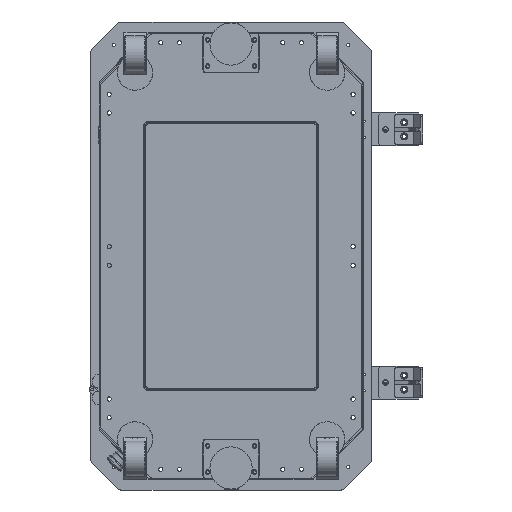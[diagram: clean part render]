
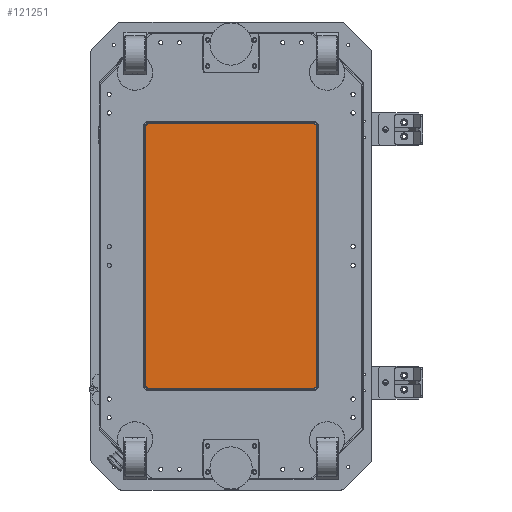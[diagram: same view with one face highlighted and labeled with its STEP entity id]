
A CAD part, front view. The second image highlights one B-rep face of the part: STEP entity #121251.
In plain terms, the highlighted planar face has unit normal (0, -1, 0).
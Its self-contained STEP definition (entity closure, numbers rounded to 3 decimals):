
#275 = CARTESIAN_POINT ( 'NONE',  ( -182., 10., 275. ) ) ;
#4348 = CIRCLE ( 'NONE', #133621, 7. ) ;
#6331 = VECTOR ( 'NONE', #153207, 1000. ) ;
#9752 = FACE_OUTER_BOUND ( 'NONE', #70098, .T. ) ;
#10982 = LINE ( 'NONE', #62292, #6331 ) ;
#11205 = EDGE_CURVE ( 'NONE', #171677, #144870, #33073, .T. ) ;
#14528 = EDGE_CURVE ( 'NONE', #148484, #87343, #34905, .T. ) ;
#16152 = DIRECTION ( 'NONE',  ( 0., -1., 0. ) ) ;
#17173 = DIRECTION ( 'NONE',  ( 0., 0., 1. ) ) ;
#26841 = VERTEX_POINT ( 'NONE', #143036 ) ;
#26889 = CARTESIAN_POINT ( 'NONE',  ( -182., 10., 275. ) ) ;
#28121 = ORIENTED_EDGE ( 'NONE', *, *, #14528, .T. ) ;
#30384 = CARTESIAN_POINT ( 'NONE',  ( -175., 10., 282. ) ) ;
#30429 = CARTESIAN_POINT ( 'NONE',  ( 175., 10., -275. ) ) ;
#31030 = DIRECTION ( 'NONE',  ( 0., 0., -1. ) ) ;
#33073 = CIRCLE ( 'NONE', #134449, 7. ) ;
#34905 = LINE ( 'NONE', #91168, #76841 ) ;
#42518 = ORIENTED_EDGE ( 'NONE', *, *, #118713, .T. ) ;
#44060 = AXIS2_PLACEMENT_3D ( 'NONE', #44155, #148041, #44807 ) ;
#44155 = CARTESIAN_POINT ( 'NONE',  ( 190., 10., 290. ) ) ;
#44807 = DIRECTION ( 'NONE',  ( -1., 0., 0. ) ) ;
#46000 = DIRECTION ( 'NONE',  ( 1., 0., 0. ) ) ;
#50288 = LINE ( 'NONE', #275, #126809 ) ;
#51101 = ORIENTED_EDGE ( 'NONE', *, *, #181128, .T. ) ;
#55811 = CIRCLE ( 'NONE', #133188, 7. ) ;
#62292 = CARTESIAN_POINT ( 'NONE',  ( -175., 10., 282. ) ) ;
#68518 = ORIENTED_EDGE ( 'NONE', *, *, #117687, .T. ) ;
#70098 = EDGE_LOOP ( 'NONE', ( #72510, #132868, #42518, #51101, #68518, #162714, #28121, #88138 ) ) ;
#72510 = ORIENTED_EDGE ( 'NONE', *, *, #83882, .T. ) ;
#74638 = CARTESIAN_POINT ( 'NONE',  ( -175., 10., -282. ) ) ;
#76841 = VECTOR ( 'NONE', #17173, 1000. ) ;
#83882 = EDGE_CURVE ( 'NONE', #163371, #171677, #10982, .T. ) ;
#85585 = EDGE_CURVE ( 'NONE', #87343, #163371, #126024, .T. ) ;
#87343 = VERTEX_POINT ( 'NONE', #160036 ) ;
#87776 = CARTESIAN_POINT ( 'NONE',  ( 175., 10., 282. ) ) ;
#88138 = ORIENTED_EDGE ( 'NONE', *, *, #85585, .T. ) ;
#89145 = DIRECTION ( 'NONE',  ( 0., -1., 0. ) ) ;
#89783 = DIRECTION ( 'NONE',  ( 0., 0., -1. ) ) ;
#91168 = CARTESIAN_POINT ( 'NONE',  ( 182., 10., 275. ) ) ;
#99844 = LINE ( 'NONE', #74638, #181255 ) ;
#103271 = PLANE ( 'NONE',  #44060 ) ;
#105372 = DIRECTION ( 'NONE',  ( 0., -1., 0. ) ) ;
#106011 = CARTESIAN_POINT ( 'NONE',  ( 182., 10., -275. ) ) ;
#115166 = CARTESIAN_POINT ( 'NONE',  ( -182., 10., -275. ) ) ;
#115595 = EDGE_CURVE ( 'NONE', #26841, #148484, #4348, .T. ) ;
#117687 = EDGE_CURVE ( 'NONE', #123354, #26841, #99844, .T. ) ;
#118713 = EDGE_CURVE ( 'NONE', #144870, #162251, #50288, .T. ) ;
#121251 = ADVANCED_FACE ( 'NONE', ( #9752 ), #103271, .F. ) ;
#121558 = CARTESIAN_POINT ( 'NONE',  ( 175., 10., 275. ) ) ;
#123354 = VERTEX_POINT ( 'NONE', #171395 ) ;
#126024 = CIRCLE ( 'NONE', #138915, 7. ) ;
#126809 = VECTOR ( 'NONE', #89783, 1000. ) ;
#132868 = ORIENTED_EDGE ( 'NONE', *, *, #11205, .T. ) ;
#133188 = AXIS2_PLACEMENT_3D ( 'NONE', #178075, #89145, #150107 ) ;
#133621 = AXIS2_PLACEMENT_3D ( 'NONE', #30429, #191453, #145982 ) ;
#134449 = AXIS2_PLACEMENT_3D ( 'NONE', #163532, #16152, #31030 ) ;
#138915 = AXIS2_PLACEMENT_3D ( 'NONE', #121558, #105372, #164538 ) ;
#143036 = CARTESIAN_POINT ( 'NONE',  ( 175., 10., -282. ) ) ;
#144870 = VERTEX_POINT ( 'NONE', #26889 ) ;
#145982 = DIRECTION ( 'NONE',  ( 0., 0., -1. ) ) ;
#148041 = DIRECTION ( 'NONE',  ( 0., 1., 0. ) ) ;
#148484 = VERTEX_POINT ( 'NONE', #106011 ) ;
#150107 = DIRECTION ( 'NONE',  ( 0., 0., -1. ) ) ;
#153207 = DIRECTION ( 'NONE',  ( -1., 0., 0. ) ) ;
#160036 = CARTESIAN_POINT ( 'NONE',  ( 182., 10., 275. ) ) ;
#162251 = VERTEX_POINT ( 'NONE', #115166 ) ;
#162714 = ORIENTED_EDGE ( 'NONE', *, *, #115595, .T. ) ;
#163371 = VERTEX_POINT ( 'NONE', #87776 ) ;
#163532 = CARTESIAN_POINT ( 'NONE',  ( -175., 10., 275. ) ) ;
#164538 = DIRECTION ( 'NONE',  ( 0., 0., -1. ) ) ;
#171395 = CARTESIAN_POINT ( 'NONE',  ( -175., 10., -282. ) ) ;
#171677 = VERTEX_POINT ( 'NONE', #30384 ) ;
#178075 = CARTESIAN_POINT ( 'NONE',  ( -175., 10., -275. ) ) ;
#181128 = EDGE_CURVE ( 'NONE', #162251, #123354, #55811, .T. ) ;
#181255 = VECTOR ( 'NONE', #46000, 1000. ) ;
#191453 = DIRECTION ( 'NONE',  ( 0., -1., 0. ) ) ;
